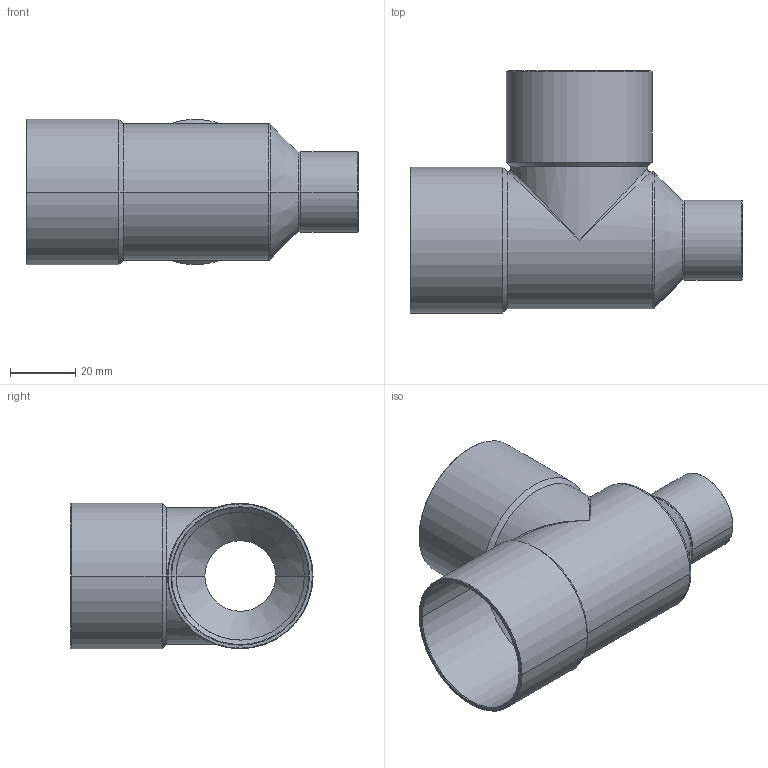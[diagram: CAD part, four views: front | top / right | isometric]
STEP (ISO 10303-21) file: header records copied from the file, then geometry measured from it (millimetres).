
FILE_DESCRIPTION((''),'2;1');
FILE_NAME('G:\Technics\CAD\Bauteile\15130\15130424222.stp','2005-11-03T13:43:10',('boden'),(''),'Autodesk Inventor 8','Autodesk Inventor 8','');
FILE_SCHEMA(('AUTOMOTIVE_DESIGN { 1 0 10303 214 1 1 1 1 }'));
Length unit declared in the file: millimetre
Products named in the file (1): 15130424222
Bounding box: 102 x 74.38 x 44.75 mm (x, y, z)
Volume: 20842.8 mm3; surface area: 32587.7 mm2
Topology: 1 solids, 1 shells, 61 faces, 142 edges, 74 vertices
Faces by surface type: cone 28, cylinder 24, bspline 4, plane 3, torus 2
Entity records: 2139 total; most frequent: CARTESIAN_POINT 754, DIRECTION 314, ORIENTED_EDGE 268, EDGE_CURVE 134, AXIS2_PLACEMENT_3D 130, VERTEX_POINT 74, CIRCLE 64, EDGE_LOOP 64
